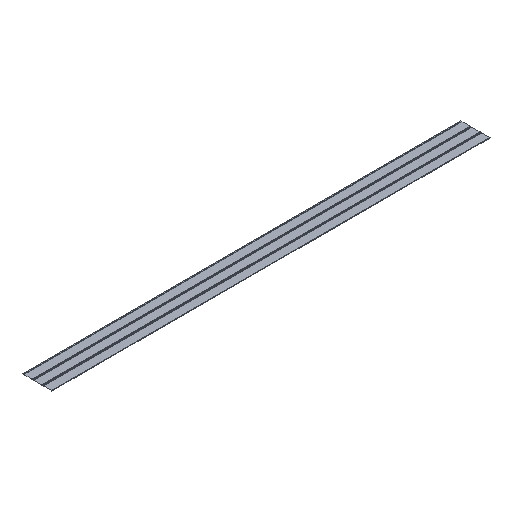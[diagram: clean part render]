
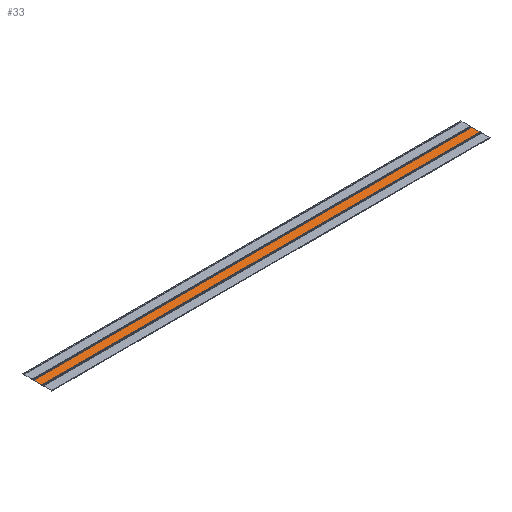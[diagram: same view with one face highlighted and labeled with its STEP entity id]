
A CAD part, isometric view. The second image highlights one B-rep face of the part: STEP entity #33.
In plain terms, the highlighted planar face has unit normal (0, 0, 1).
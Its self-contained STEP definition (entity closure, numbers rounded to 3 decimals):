
#33=ADVANCED_FACE('',(#57),#411,.T.);
#57=FACE_OUTER_BOUND('',#81,.T.);
#81=EDGE_LOOP('',(#141,#142,#143,#144));
#141=ORIENTED_EDGE('',*,*,#227,.T.);
#142=ORIENTED_EDGE('',*,*,#228,.T.);
#143=ORIENTED_EDGE('',*,*,#229,.F.);
#144=ORIENTED_EDGE('',*,*,#225,.F.);
#225=EDGE_CURVE('',#365,#366,#280,.T.);
#227=EDGE_CURVE('',#365,#367,#320,.T.);
#228=EDGE_CURVE('',#367,#368,#321,.T.);
#229=EDGE_CURVE('',#366,#368,#322,.T.);
#280=(
BOUNDED_CURVE()
B_SPLINE_CURVE(1,(#646,#647),.UNSPECIFIED.,.F.,.F.)
B_SPLINE_CURVE_WITH_KNOTS((2,2),(0.,6200.),.UNSPECIFIED.)
CURVE()
GEOMETRIC_REPRESENTATION_ITEM()
RATIONAL_B_SPLINE_CURVE((1.,1.))
REPRESENTATION_ITEM('')
);
#320=B_SPLINE_CURVE_WITH_KNOTS('',1,(#651,#652,#653,#654),.UNSPECIFIED.,
 .F.,.F.,(2,1,1,2),(30.669,30.969,148.369,148.669),
 .UNSPECIFIED.);
#321=B_SPLINE_CURVE_WITH_KNOTS('',1,(#655,#656),.UNSPECIFIED.,.F.,.F.,(2,
2),(0.,6200.),.UNSPECIFIED.);
#322=B_SPLINE_CURVE_WITH_KNOTS('',1,(#657,#658,#659,#660),.UNSPECIFIED.,
 .F.,.F.,(2,1,1,2),(30.669,30.969,148.369,148.669),
 .UNSPECIFIED.);
#365=VERTEX_POINT('',#611);
#366=VERTEX_POINT('',#612);
#367=VERTEX_POINT('',#613);
#368=VERTEX_POINT('',#614);
#411=PLANE('',#443);
#443=AXIS2_PLACEMENT_3D('',#589,#458,$);
#458=DIRECTION('',(0.,0.,1.));
#589=CARTESIAN_POINT('',(-3100.,256.218,5.814));
#611=CARTESIAN_POINT('',(-3100.,256.218,5.814));
#612=CARTESIAN_POINT('',(3100.,256.218,5.814));
#613=CARTESIAN_POINT('',(-3100.,138.218,5.814));
#614=CARTESIAN_POINT('',(3100.,138.218,5.814));
#646=CARTESIAN_POINT('',(-3100.,256.218,5.814));
#647=CARTESIAN_POINT('',(3100.,256.218,5.814));
#651=CARTESIAN_POINT('',(-3100.,256.218,5.814));
#652=CARTESIAN_POINT('',(-3100.,255.918,5.814));
#653=CARTESIAN_POINT('',(-3100.,138.518,5.814));
#654=CARTESIAN_POINT('',(-3100.,138.218,5.814));
#655=CARTESIAN_POINT('',(-3100.,138.218,5.814));
#656=CARTESIAN_POINT('',(3100.,138.218,5.814));
#657=CARTESIAN_POINT('',(3100.,256.218,5.814));
#658=CARTESIAN_POINT('',(3100.,255.918,5.814));
#659=CARTESIAN_POINT('',(3100.,138.518,5.814));
#660=CARTESIAN_POINT('',(3100.,138.218,5.814));
